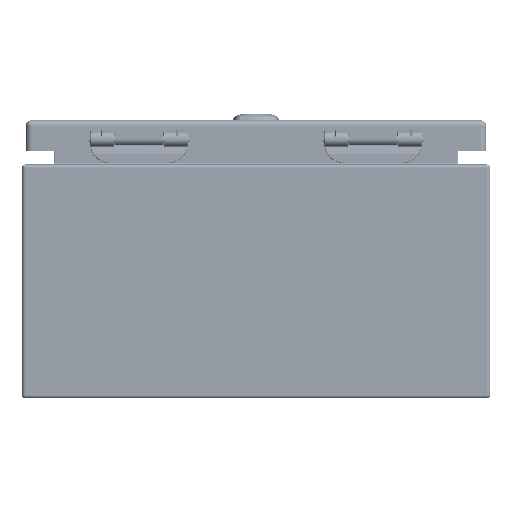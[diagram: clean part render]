
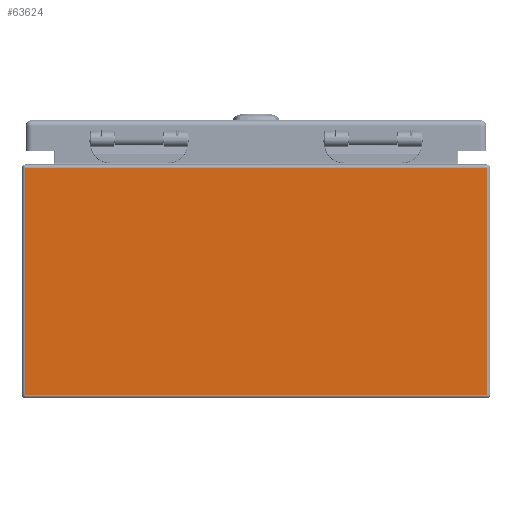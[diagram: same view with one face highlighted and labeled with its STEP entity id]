
A CAD part, left-side view. The second image highlights one B-rep face of the part: STEP entity #63624.
In plain terms, the highlighted planar face has unit normal (-1, 0, 0).
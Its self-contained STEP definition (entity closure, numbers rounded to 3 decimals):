
#6241=LINE('',#88813,#10178);
#6252=LINE('',#88854,#10189);
#6256=LINE('',#88869,#10193);
#6257=LINE('',#88870,#10194);
#10178=VECTOR('',#73972,0.394);
#10189=VECTOR('',#74021,0.394);
#10193=VECTOR('',#74039,0.394);
#10194=VECTOR('',#74040,0.394);
#15118=FACE_OUTER_BOUND('',#19032,.T.);
#19032=EDGE_LOOP('',(#42299,#42300,#42301,#42302));
#25455=VERTEX_POINT('',#88806);
#25456=VERTEX_POINT('',#88811);
#25467=VERTEX_POINT('',#88853);
#25471=VERTEX_POINT('',#88868);
#31960=EDGE_CURVE('',#25456,#25455,#6241,.T.);
#31980=EDGE_CURVE('',#25455,#25467,#6252,.T.);
#31988=EDGE_CURVE('',#25471,#25456,#6256,.T.);
#31989=EDGE_CURVE('',#25471,#25467,#6257,.T.);
#42299=ORIENTED_EDGE('',*,*,#31960,.F.);
#42300=ORIENTED_EDGE('',*,*,#31988,.F.);
#42301=ORIENTED_EDGE('',*,*,#31989,.T.);
#42302=ORIENTED_EDGE('',*,*,#31980,.F.);
#62260=PLANE('',#68427);
#63624=ADVANCED_FACE('',(#15118),#62260,.F.);
#68427=AXIS2_PLACEMENT_3D('',#88867,#74037,#74038);
#73972=DIRECTION('',(0.,-1.,0.));
#74021=DIRECTION('',(0.,0.,-1.));
#74037=DIRECTION('center_axis',(1.,0.,0.));
#74038=DIRECTION('ref_axis',(0.,0.,-1.));
#74039=DIRECTION('',(0.,0.,1.));
#74040=DIRECTION('',(0.,-1.,0.));
#88806=CARTESIAN_POINT('',(-12.,-5.916,5.916));
#88811=CARTESIAN_POINT('',(-12.,5.916,5.916));
#88813=CARTESIAN_POINT('',(-12.,-2.979,5.916));
#88853=CARTESIAN_POINT('',(-12.,-5.916,0.084));
#88854=CARTESIAN_POINT('',(-12.,-5.916,3.));
#88867=CARTESIAN_POINT('Origin',(-12.,0.,3.));
#88868=CARTESIAN_POINT('',(-12.,5.916,0.084));
#88869=CARTESIAN_POINT('',(-12.,5.916,3.));
#88870=CARTESIAN_POINT('',(-12.,3.,0.084));
